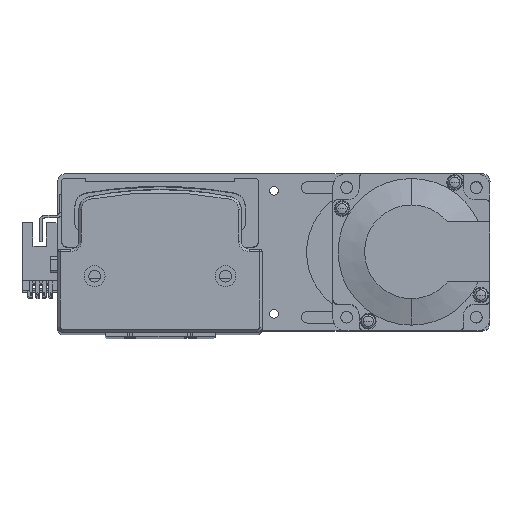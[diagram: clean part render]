
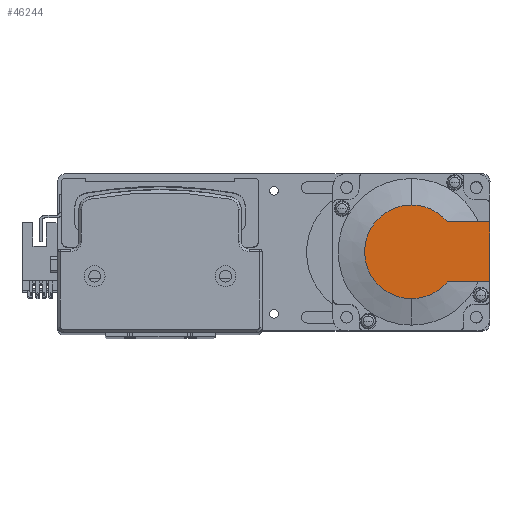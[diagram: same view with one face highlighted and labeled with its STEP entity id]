
A CAD part, top view. The second image highlights one B-rep face of the part: STEP entity #46244.
In plain terms, the highlighted planar face has unit normal (0, 0, 1) as drawn and (-1, 0, 0) by its records, which use the part's own axes.
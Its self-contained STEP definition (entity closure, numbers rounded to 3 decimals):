
#1036 = EDGE_CURVE ( 'NONE', #13704, #33671, #15301, .T. ) ;
#1103 = EDGE_CURVE ( 'NONE', #33671, #6004, #18963, .T. ) ;
#1119 = EDGE_CURVE ( 'NONE', #31940, #24996, #37515, .T. ) ;
#1255 = EDGE_CURVE ( 'NONE', #13704, #31940, #17122, .T. ) ;
#1927 = ORIENTED_EDGE ( 'NONE', *, *, #16590, .T. ) ;
#3002 = DIRECTION ( 'NONE',  ( -1., 0., 0. ) ) ;
#3040 = ORIENTED_EDGE ( 'NONE', *, *, #1103, .T. ) ;
#3161 = AXIS2_PLACEMENT_3D ( 'NONE', #4730, #31137, #8541 ) ;
#3341 = CARTESIAN_POINT ( 'NONE',  ( -118.5, 13.735, -11.45 ) ) ;
#3727 = CARTESIAN_POINT ( 'NONE',  ( -118.5, 0., 17.881 ) ) ;
#3920 = AXIS2_PLACEMENT_3D ( 'NONE', #31051, #8443, #34760 ) ;
#4730 = CARTESIAN_POINT ( 'NONE',  ( -118.5, 0., 0. ) ) ;
#5123 = VECTOR ( 'NONE', #20856, 1000. ) ;
#5549 = AXIS2_PLACEMENT_3D ( 'NONE', #13833, #39894, #17688 ) ;
#6004 = VERTEX_POINT ( 'NONE', #45424 ) ;
#6942 = VECTOR ( 'NONE', #22313, 1000. ) ;
#7555 = VECTOR ( 'NONE', #28971, 1000. ) ;
#8443 = DIRECTION ( 'NONE',  ( -1., 0., 0. ) ) ;
#8541 = DIRECTION ( 'NONE',  ( 0., 0., -1. ) ) ;
#9306 = CARTESIAN_POINT ( 'NONE',  ( -118.5, -8.941, -11.45 ) ) ;
#9696 = VERTEX_POINT ( 'NONE', #3727 ) ;
#13704 = VERTEX_POINT ( 'NONE', #19715 ) ;
#13833 = CARTESIAN_POINT ( 'NONE',  ( -118.5, 0., 0. ) ) ;
#13858 = AXIS2_PLACEMENT_3D ( 'NONE', #25776, #3002, #29497 ) ;
#15301 = LINE ( 'NONE', #9306, #5123 ) ;
#16590 = EDGE_CURVE ( 'NONE', #6004, #9696, #47889, .T. ) ;
#16879 = EDGE_CURVE ( 'NONE', #9696, #24996, #39224, .T. ) ;
#17122 = LINE ( 'NONE', #26041, #6942 ) ;
#17688 = DIRECTION ( 'NONE',  ( 0., 0., -1. ) ) ;
#18325 = ORIENTED_EDGE ( 'NONE', *, *, #1255, .F. ) ;
#18475 = CARTESIAN_POINT ( 'NONE',  ( -118.5, 13.735, 11.45 ) ) ;
#18963 = CIRCLE ( 'NONE', #5549, 17.881 ) ;
#19715 = CARTESIAN_POINT ( 'NONE',  ( -118.5, 30., -11.45 ) ) ;
#20856 = DIRECTION ( 'NONE',  ( 0., -1., 0. ) ) ;
#21518 = CARTESIAN_POINT ( 'NONE',  ( -118.5, 0., 11.45 ) ) ;
#22313 = DIRECTION ( 'NONE',  ( 0., 0., 1. ) ) ;
#24996 = VERTEX_POINT ( 'NONE', #18475 ) ;
#25776 = CARTESIAN_POINT ( 'NONE',  ( -118.5, -8.941, 0. ) ) ;
#26041 = CARTESIAN_POINT ( 'NONE',  ( -118.5, 30., 25. ) ) ;
#27438 = FACE_OUTER_BOUND ( 'NONE', #35118, .T. ) ;
#27736 = ORIENTED_EDGE ( 'NONE', *, *, #1119, .F. ) ;
#28971 = DIRECTION ( 'NONE',  ( 0., -1., 0. ) ) ;
#29497 = DIRECTION ( 'NONE',  ( 0., 0., 1. ) ) ;
#31051 = CARTESIAN_POINT ( 'NONE',  ( -118.5, 0., 0. ) ) ;
#31137 = DIRECTION ( 'NONE',  ( -1., 0., 0. ) ) ;
#31940 = VERTEX_POINT ( 'NONE', #43046 ) ;
#32181 = ORIENTED_EDGE ( 'NONE', *, *, #1036, .T. ) ;
#33671 = VERTEX_POINT ( 'NONE', #3341 ) ;
#34760 = DIRECTION ( 'NONE',  ( 0., 0., -1. ) ) ;
#35118 = EDGE_LOOP ( 'NONE', ( #32181, #3040, #1927, #42447, #27736, #18325 ) ) ;
#37515 = LINE ( 'NONE', #21518, #7555 ) ;
#39224 = CIRCLE ( 'NONE', #3161, 17.881 ) ;
#39894 = DIRECTION ( 'NONE',  ( -1., 0., 0. ) ) ;
#40272 = PLANE ( 'NONE',  #13858 ) ;
#42447 = ORIENTED_EDGE ( 'NONE', *, *, #16879, .T. ) ;
#43046 = CARTESIAN_POINT ( 'NONE',  ( -118.5, 30., 11.45 ) ) ;
#45424 = CARTESIAN_POINT ( 'NONE',  ( -118.5, 0., -17.881 ) ) ;
#46244 = ADVANCED_FACE ( 'NONE', ( #27438 ), #40272, .T. ) ;
#47889 = CIRCLE ( 'NONE', #3920, 17.881 ) ;
